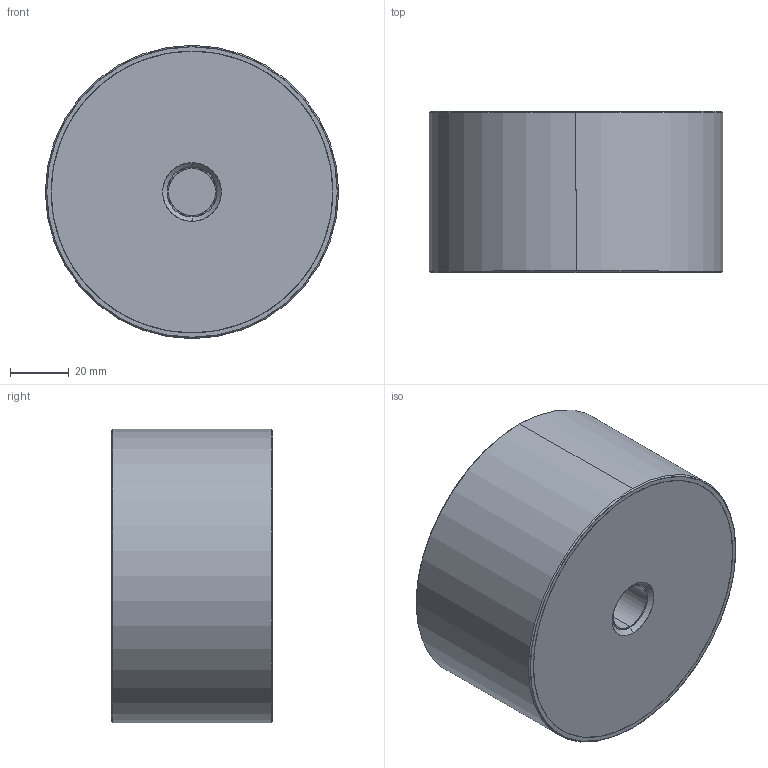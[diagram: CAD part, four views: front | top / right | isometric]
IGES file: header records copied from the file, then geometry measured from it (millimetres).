
Start section: SolidWorks IGES file using analytic representation for surfaces
Global section: file name: E:\WIXROYD 20180701\61080_v2\61080_v2_20180409_IGES\61080.W0902.igs; native system: SolidWorks 2017; preprocessor: SolidWorks 2017; author: liam_; date: 180716.214725; units: millimetre
Bounding box: 100 x 55 x 100 mm (x, y, z)
Surface area: 64186.5 mm2 (no closed solid volume)
Topology: 0 solids, 0 shells, 32 faces, 984 edges, 984 vertices
Faces by surface type: revolution 22, bspline 10
